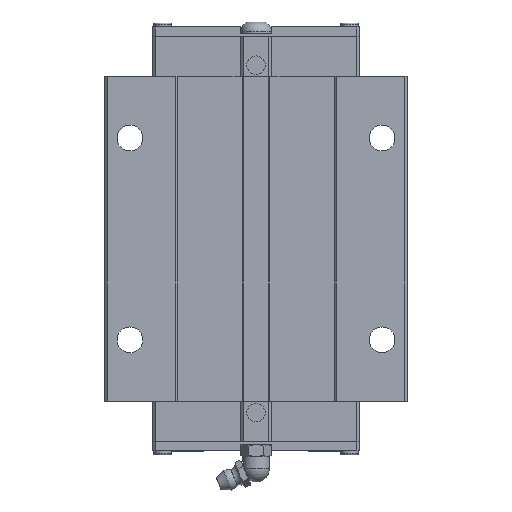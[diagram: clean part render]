
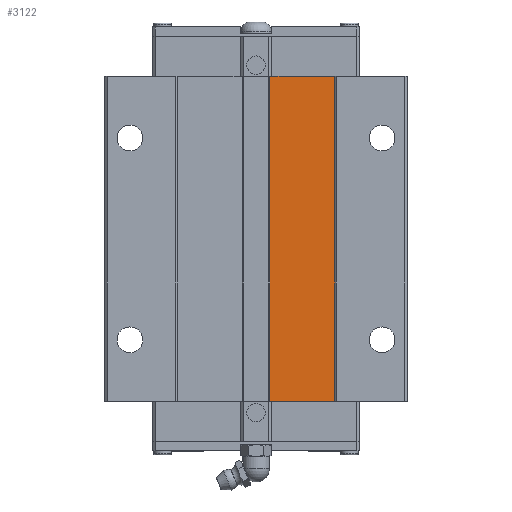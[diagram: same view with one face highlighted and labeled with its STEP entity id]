
A CAD part, top view. The second image highlights one B-rep face of the part: STEP entity #3122.
In plain terms, the highlighted planar face has unit normal (0, 0, 1).
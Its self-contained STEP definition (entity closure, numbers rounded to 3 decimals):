
#2270=VERTEX_POINT('',#5683);
#2290=VERTEX_POINT('',#5706);
#2414=EDGE_CURVE('',#2270,#2290,#5845,.T.);
#2804=EDGE_CURVE('',#3528,#3630,#6284,.T.);
#3122=ADVANCED_FACE('',(#6637),#6638,.F.);
#3528=VERTEX_POINT('',#7088);
#3622=EDGE_CURVE('',#3630,#2270,#7192,.T.);
#3630=VERTEX_POINT('',#7200);
#4944=EDGE_CURVE('',#3528,#2290,#8632,.T.);
#5683=CARTESIAN_POINT('',(31.25,19.6,59.5));
#5706=CARTESIAN_POINT('',(5.5,19.6,59.5));
#5845=LINE('',#9927,#9928);
#6284=LINE('',#10534,#10535);
#6637=FACE_OUTER_BOUND('',#11054,.T.);
#6638=PLANE('',#11055);
#7088=CARTESIAN_POINT('',(5.5,148.4,59.5));
#7192=LINE('',#11908,#11909);
#7200=CARTESIAN_POINT('',(31.25,148.4,59.5));
#8632=LINE('',#14124,#14125);
#9927=CARTESIAN_POINT('',(15.625,19.6,59.5));
#9928=VECTOR('',#15173,1.0);
#10534=CARTESIAN_POINT('',(15.625,148.4,59.5));
#10535=VECTOR('',#15759,1.0);
#11054=EDGE_LOOP('',(#16209,#16210,#16211,#16212));
#11055=AXIS2_PLACEMENT_3D('',#16213,#16214,#16215);
#11908=CARTESIAN_POINT('',(31.25,212.8,59.5));
#11909=VECTOR('',#16774,1.0);
#14124=CARTESIAN_POINT('',(5.5,180.6,59.5));
#14125=VECTOR('',#18247,1.0);
#15173=DIRECTION('',(-1.0,-0.0,-0.0));
#15759=DIRECTION('',(1.0,0.0,0.0));
#16209=ORIENTED_EDGE('',*,*,#4944,.T.);
#16210=ORIENTED_EDGE('',*,*,#2414,.F.);
#16211=ORIENTED_EDGE('',*,*,#3622,.F.);
#16212=ORIENTED_EDGE('',*,*,#2804,.F.);
#16213=CARTESIAN_POINT('',(31.25,212.8,59.5));
#16214=DIRECTION('',(0.0,0.0,-1.0));
#16215=DIRECTION('',(1.0,0.0,0.0));
#16774=DIRECTION('',(0.0,-1.0,0.0));
#18247=DIRECTION('',(0.0,-1.0,0.0));
